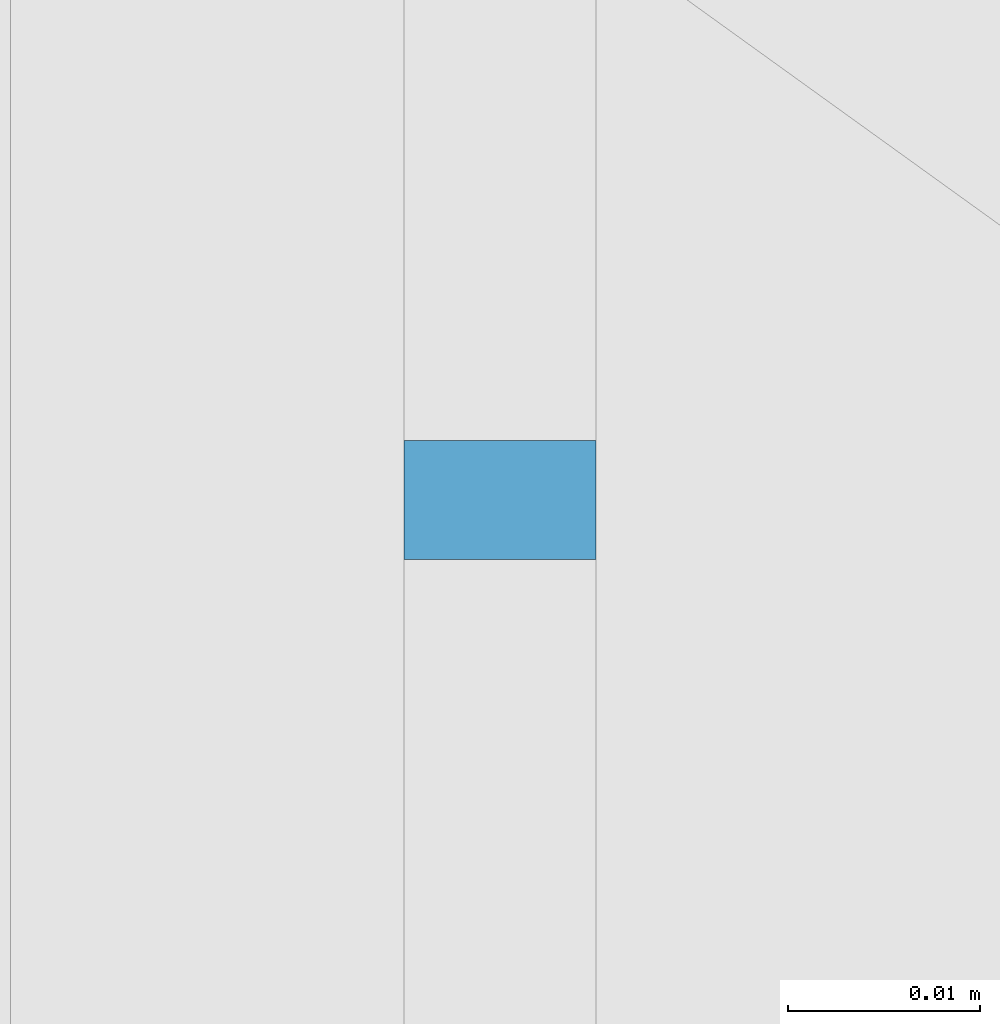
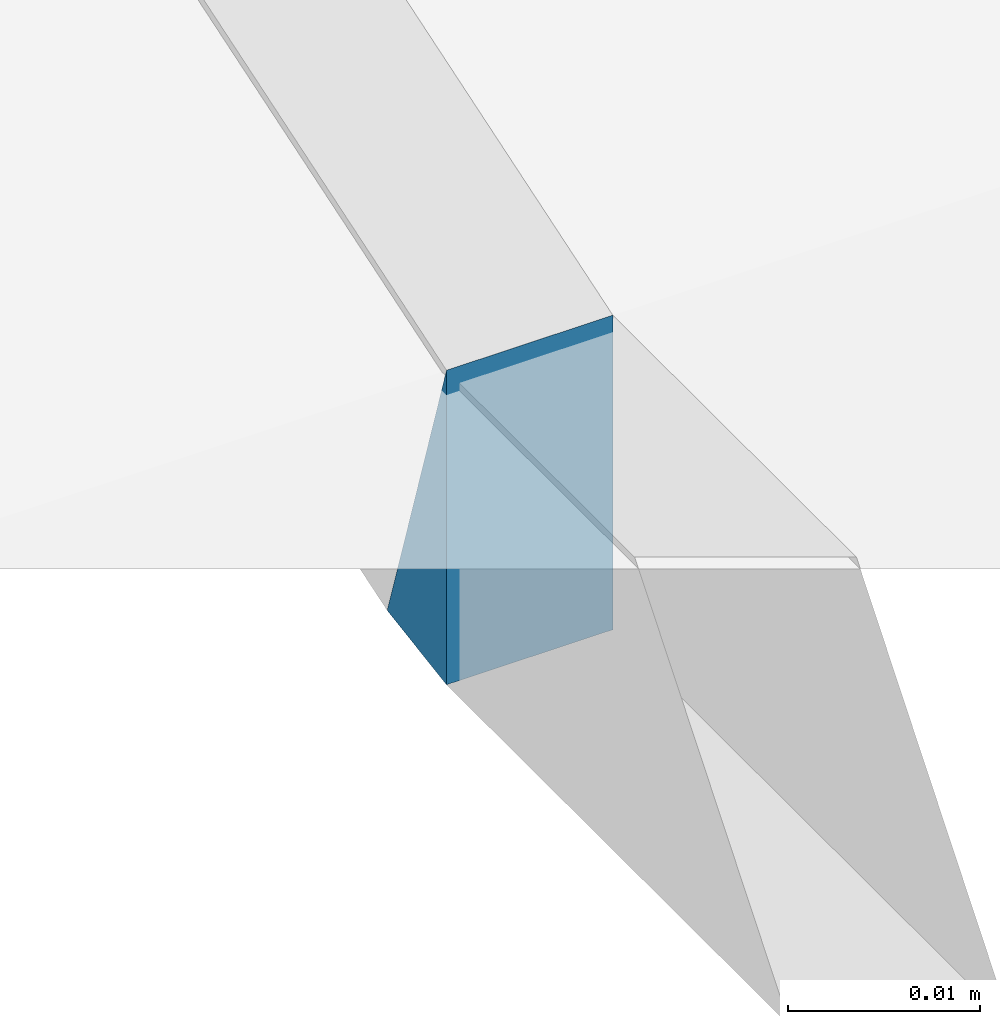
# One storey, part 354 of 583: 1 slab.
"""IFC2X3 building model written with IfcOpenShell, lengths in metres."""

from ifc_helpers import new_model, entity, si_unit, converted_unit, derived_unit, money_unit, direction, frame, origin_with_axes, place, context, subcontext, project, spatial, faceted_brep, material, type_object, element, save


model = new_model("IFC2X3")

# Units and contexts
model_context = context("Model", 3, precision=1e-05, world=origin_with_axes(), true_north=direction((0.0, 1.0)))
body_context = subcontext(model_context, "Body", "Model", "MODEL_VIEW", scale=1.0)
ifc_project = project(units=[si_unit("LENGTHUNIT", "METRE"), si_unit("AREAUNIT", "SQUARE_METRE"), si_unit("VOLUMEUNIT", "CUBIC_METRE"), si_unit("ABSORBEDDOSEUNIT", "GRAY"), si_unit("AMOUNTOFSUBSTANCEUNIT", "MOLE"), si_unit("DOSEEQUIVALENTUNIT", "SIEVERT"), si_unit("ELECTRICCAPACITANCEUNIT", "FARAD"), si_unit("ELECTRICCHARGEUNIT", "COULOMB"), si_unit("ELECTRICCONDUCTANCEUNIT", "SIEMENS"), si_unit("ELECTRICCURRENTUNIT", "AMPERE"), si_unit("ELECTRICRESISTANCEUNIT", "OHM"), si_unit("ELECTRICVOLTAGEUNIT", "VOLT"), si_unit("ENERGYUNIT", "JOULE"), si_unit("FORCEUNIT", "NEWTON"), si_unit("FREQUENCYUNIT", "HERTZ"), si_unit("ILLUMINANCEUNIT", "LUX"), si_unit("INDUCTANCEUNIT", "HENRY"), si_unit("LUMINOUSFLUXUNIT", "LUMEN"), si_unit("LUMINOUSINTENSITYUNIT", "CANDELA"), si_unit("MAGNETICFLUXDENSITYUNIT", "TESLA"), si_unit("MAGNETICFLUXUNIT", "WEBER"), si_unit("MASSUNIT", "GRAM"), converted_unit("PLANEANGLEUNIT", "degree", entity("IfcReal", 0.0174532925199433), si_unit("PLANEANGLEUNIT", "RADIAN"), dimensions=[0, 0, 0, 0, 0, 0, 0]), si_unit("POWERUNIT", "WATT"), si_unit("PRESSUREUNIT", "PASCAL"), si_unit("RADIOACTIVITYUNIT", "BECQUEREL"), si_unit("SOLIDANGLEUNIT", "STERADIAN"), si_unit("THERMODYNAMICTEMPERATUREUNIT", "KELVIN"), si_unit("TIMEUNIT", "SECOND"), derived_unit("ACCELERATIONUNIT", [(si_unit("LENGTHUNIT", "METRE"), 1), (si_unit("TIMEUNIT", "SECOND"), -2)]), derived_unit("ANGULARVELOCITYUNIT", [(converted_unit("PLANEANGLEUNIT", "degree", entity("IfcReal", 0.0174532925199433), si_unit("PLANEANGLEUNIT", "RADIAN"), dimensions=[0, 0, 0, 0, 0, 0, 0]), 1), (si_unit("TIMEUNIT", "SECOND"), -1)]), derived_unit("CURVATUREUNIT", [(converted_unit("PLANEANGLEUNIT", "degree", entity("IfcReal", 0.0174532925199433), si_unit("PLANEANGLEUNIT", "RADIAN"), dimensions=[0, 0, 0, 0, 0, 0, 0]), 1), (si_unit("LENGTHUNIT", "METRE"), -1)]), derived_unit("DYNAMICVISCOSITYUNIT", [(si_unit("PRESSUREUNIT", "PASCAL"), 1), (si_unit("TIMEUNIT", "SECOND"), 1)]), derived_unit("HEATFLUXDENSITYUNIT", [(si_unit("POWERUNIT", "WATT"), 1), (si_unit("LENGTHUNIT", "METRE"), -2)]), derived_unit("HEATINGVALUEUNIT", [(si_unit("ENERGYUNIT", "JOULE"), 1), (si_unit("MASSUNIT", "GRAM"), -1)]), derived_unit("INTEGERCOUNTRATEUNIT", [(si_unit("TIMEUNIT", "SECOND"), -1)]), derived_unit("IONCONCENTRATIONUNIT", [(si_unit("MASSUNIT", "GRAM"), 1), (si_unit("VOLUMEUNIT", "CUBIC_METRE"), -1)]), derived_unit("ISOTHERMALMOISTURECAPACITYUNIT", [(si_unit("VOLUMEUNIT", "CUBIC_METRE"), 1), (si_unit("MASSUNIT", "GRAM"), -1)]), derived_unit("KINEMATICVISCOSITYUNIT", [(si_unit("AREAUNIT", "SQUARE_METRE"), 1), (si_unit("TIMEUNIT", "SECOND"), -1)]), derived_unit("LINEARFORCEUNIT", [(si_unit("FORCEUNIT", "NEWTON"), 1), (si_unit("LENGTHUNIT", "METRE"), -1)]), derived_unit("LINEARMOMENTUNIT", [(si_unit("FORCEUNIT", "NEWTON"), 1), (si_unit("LENGTHUNIT", "METRE"), -1)]), derived_unit("LINEARSTIFFNESSUNIT", [(si_unit("FORCEUNIT", "NEWTON"), 1), (si_unit("LENGTHUNIT", "METRE"), -1)]), derived_unit("LINEARVELOCITYUNIT", [(si_unit("LENGTHUNIT", "METRE"), 1), (si_unit("TIMEUNIT", "SECOND"), -1)]), derived_unit("LUMINOUSINTENSITYDISTRIBUTIONUNIT", [(si_unit("LUMINOUSINTENSITYUNIT", "CANDELA"), 1), (si_unit("LUMINOUSFLUXUNIT", "LUMEN"), -1)]), derived_unit("MASSDENSITYUNIT", [(si_unit("MASSUNIT", "GRAM"), 1), (si_unit("VOLUMEUNIT", "CUBIC_METRE"), -1)]), derived_unit("MASSFLOWRATEUNIT", [(si_unit("MASSUNIT", "GRAM"), 1), (si_unit("TIMEUNIT", "SECOND"), -1)]), derived_unit("MASSPERLENGTHUNIT", [(si_unit("MASSUNIT", "GRAM"), 1), (si_unit("LENGTHUNIT", "METRE"), -1)]), derived_unit("MODULUSOFELASTICITYUNIT", [(si_unit("FORCEUNIT", "NEWTON"), 1), (si_unit("AREAUNIT", "SQUARE_METRE"), -1)]), derived_unit("MODULUSOFLINEARSUBGRADEREACTIONUNIT", [(si_unit("FORCEUNIT", "NEWTON"), 1), (si_unit("LENGTHUNIT", "METRE"), -2)]), derived_unit("MODULUSOFROTATIONALSUBGRADEREACTIONUNIT", [(si_unit("FORCEUNIT", "NEWTON"), 1), (si_unit("LENGTHUNIT", "METRE"), 1)]), derived_unit("MODULUSOFSUBGRADEREACTIONUNIT", [(si_unit("FORCEUNIT", "NEWTON"), 1), (si_unit("VOLUMEUNIT", "CUBIC_METRE"), -1)]), derived_unit("MOISTUREDIFFUSIVITYUNIT", [(si_unit("VOLUMEUNIT", "CUBIC_METRE"), 1), (si_unit("TIMEUNIT", "SECOND"), -1)]), derived_unit("MOLECULARWEIGHTUNIT", [(si_unit("MASSUNIT", "GRAM"), 1), (si_unit("AMOUNTOFSUBSTANCEUNIT", "MOLE"), -1)]), derived_unit("PLANARFORCEUNIT", [(si_unit("FORCEUNIT", "NEWTON"), 1), (si_unit("LENGTHUNIT", "METRE"), -2)]), derived_unit("ROTATIONALFREQUENCYUNIT", [(si_unit("TIMEUNIT", "SECOND"), -1)]), derived_unit("ROTATIONALMASSUNIT", [(si_unit("MASSUNIT", "GRAM"), 1), (si_unit("LENGTHUNIT", "METRE"), 2)]), derived_unit("ROTATIONALSTIFFNESSUNIT", [(si_unit("FORCEUNIT", "NEWTON"), 1), (si_unit("LENGTHUNIT", "METRE"), 1), (converted_unit("PLANEANGLEUNIT", "degree", entity("IfcReal", 0.0174532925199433), si_unit("PLANEANGLEUNIT", "RADIAN"), dimensions=[0, 0, 0, 0, 0, 0, 0]), -1)]), derived_unit("SECTIONAREAINTEGRALUNIT", [(si_unit("LENGTHUNIT", "METRE"), 5)]), derived_unit("SECTIONMODULUSUNIT", [(si_unit("LENGTHUNIT", "METRE"), 3)]), derived_unit("SHEARMODULUSUNIT", [(si_unit("FORCEUNIT", "NEWTON"), 1), (si_unit("AREAUNIT", "SQUARE_METRE"), -1)]), derived_unit("SOUNDPOWERUNIT", [(si_unit("ENERGYUNIT", "JOULE"), 1), (si_unit("TIMEUNIT", "SECOND"), -1)]), derived_unit("SPECIFICHEATCAPACITYUNIT", [(si_unit("FORCEUNIT", "NEWTON"), 1), (si_unit("MASSUNIT", "GRAM"), -1), (si_unit("THERMODYNAMICTEMPERATUREUNIT", "KELVIN"), -1)]), derived_unit("TEMPERATUREGRADIENTUNIT", [(si_unit("THERMODYNAMICTEMPERATUREUNIT", "KELVIN"), 1), (si_unit("LENGTHUNIT", "METRE"), -1)]), derived_unit("THERMALADMITTANCEUNIT", [(si_unit("POWERUNIT", "WATT"), 1), (si_unit("AREAUNIT", "SQUARE_METRE"), -1), (si_unit("THERMODYNAMICTEMPERATUREUNIT", "KELVIN"), -1)]), derived_unit("THERMALCONDUCTANCEUNIT", [(si_unit("POWERUNIT", "WATT"), 1), (si_unit("LENGTHUNIT", "METRE"), -1), (si_unit("THERMODYNAMICTEMPERATUREUNIT", "KELVIN"), -1)]), derived_unit("THERMALEXPANSIONCOEFFICIENTUNIT", [(si_unit("THERMODYNAMICTEMPERATUREUNIT", "KELVIN"), -1)]), derived_unit("THERMALRESISTANCEUNIT", [(si_unit("AREAUNIT", "SQUARE_METRE"), 1), (si_unit("POWERUNIT", "WATT"), -1)]), derived_unit("THERMALTRANSMITTANCEUNIT", [(si_unit("POWERUNIT", "WATT"), 1), (si_unit("AREAUNIT", "SQUARE_METRE"), -1), (si_unit("THERMODYNAMICTEMPERATUREUNIT", "KELVIN"), -1)]), derived_unit("TORQUEUNIT", [(si_unit("FORCEUNIT", "NEWTON"), 1), (si_unit("LENGTHUNIT", "METRE"), 1)]), derived_unit("VAPORPERMEABILITYUNIT", [(si_unit("MASSUNIT", "GRAM"), 1), (si_unit("TIMEUNIT", "SECOND"), -1)]), derived_unit("VOLUMETRICFLOWRATEUNIT", [(si_unit("VOLUMEUNIT", "CUBIC_METRE"), 1), (si_unit("TIMEUNIT", "SECOND"), -1)]), derived_unit("WARPINGCONSTANTUNIT", [(si_unit("LENGTHUNIT", "METRE"), 6)]), derived_unit("WARPINGMOMENTUNIT", [(si_unit("FORCEUNIT", "NEWTON"), 1), (si_unit("LENGTHUNIT", "METRE"), 2)]), money_unit("GBP")], contexts=[model_context])

# Site, building, storey
site_placement = place(None, origin_with_axes())
site = spatial("IfcSite", under=ifc_project, at=site_placement, Name="Site", CompositionType="ELEMENT")
building_placement = place(site_placement, origin_with_axes())
building = spatial("IfcBuilding", under=site, at=building_placement, Name="Building01", CompositionType="ELEMENT")
storey_placement = place(building_placement, frame((0.0, 0.0, 20.78), z_axis=(0.0, 0.0, 1.0), x_axis=(1.0, 0.0, 0.0)))
storey = spatial("IfcBuildingStorey", under=building, at=storey_placement, Name="RL", CompositionType="ELEMENT", Elevation=20.78)

# Slab
ifc_material = material(Name="A_BSUK_Roofs")
slab_type = type_object("IfcSlabType", Name="A-FloorsSlabs A_BSUK_Slabs", PredefinedType="FLOOR")
slab_placement = place(storey_placement, frame((8.538453, 16.280608, -20.279021), z_axis=(0.0, 1.0, 0.0), x_axis=(-1.0, 0.0, 0.0)))
element("IfcSlab", 1, at=slab_placement, inside=storey, type_object=slab_type, material=ifc_material, Name="A-FloorsSlabs A_BSUK_Slabs", ObjectType="A-FloorsSlabs A_BSUK_Slabs", context=body_context, shape_type="Brep", body=[
    faceted_brep([(0.0, -0.000979, -0.00618), (0.01, -0.000979, -0.00618), (0.01, 0.0, 0.0), (0.0, 0.0, 0.0), (0.0, 0.019021, -0.00618), (0.01, 0.019021, -0.00618)], [[[0, 1, 2, 3]], [[4, 5, 1, 0]], [[3, 2, 5, 4]], [[1, 5, 2]], [[3, 4, 0]]]),
])

save(model, "model.ifc")
